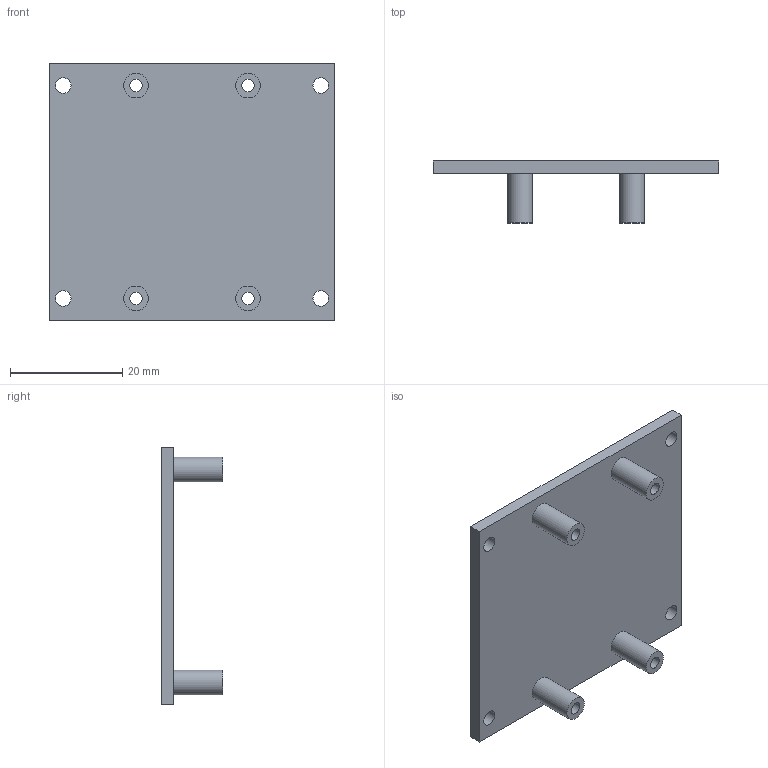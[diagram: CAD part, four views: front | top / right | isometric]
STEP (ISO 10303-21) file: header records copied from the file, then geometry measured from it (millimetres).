
FILE_DESCRIPTION(('FreeCAD Model'),'2;1');
FILE_NAME('Open CASCADE Shape Model','2026-09-19T18:07:28',('FreeCAD'),( 'FreeCAD'),'Open CASCADE STEP processor 7.8','FreeCAD','Unknown');
FILE_SCHEMA(('AUTOMOTIVE_DESIGN { 1 0 10303 214 1 1 1 1 }'));
Length unit declared in the file: millimetre
Products named in the file (1): Open CASCADE STEP translator 7.8 5
Bounding box: 51 x 11 x 46 mm (x, y, z)
Volume: 5475 mm3; surface area: 5907.2 mm2
Topology: 1 solids, 1 shells, 22 faces, 48 edges, 32 vertices
Faces by surface type: cylinder 12, plane 10
Full cylindrical faces by diameter (mm): 2.2 x4, 2.8 x4, 4.4 x4
Entity records: 658 total; most frequent: DIRECTION 118, CARTESIAN_POINT 103, ORIENTED_EDGE 96, EDGE_CURVE 48, AXIS2_PLACEMENT_3D 47, FACE_BOUND 42, EDGE_LOOP 42, VERTEX_POINT 32
